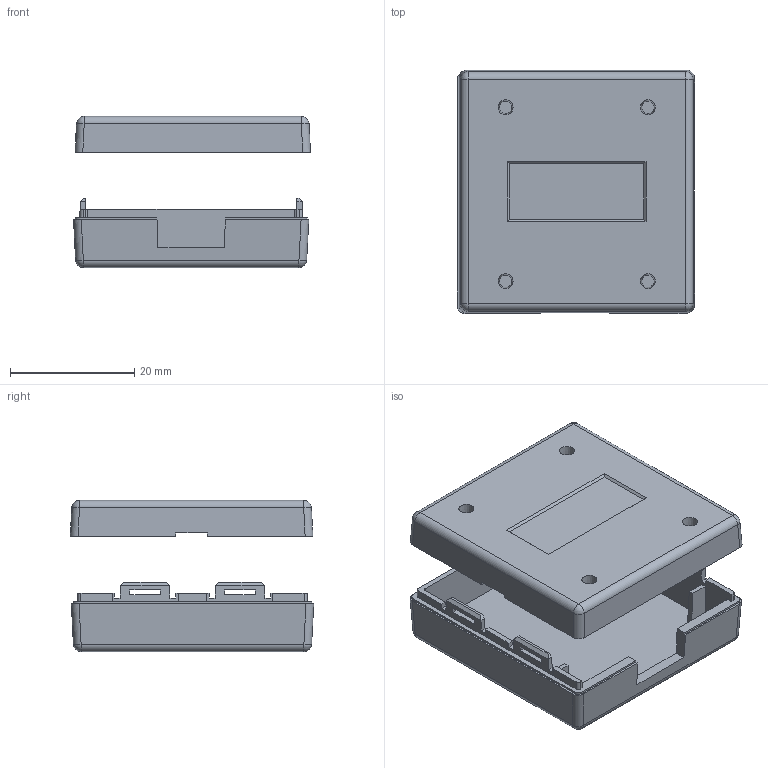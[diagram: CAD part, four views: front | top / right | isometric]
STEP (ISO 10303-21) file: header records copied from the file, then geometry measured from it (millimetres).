
FILE_DESCRIPTION(/* description */ ('Alibre Inc.'),/* implementation_level */ '2;1');
FILE_NAME(/* name */ 'export0',/* time_stamp */ '2014-08-01T08:11:11-06:00',/* author */ (''),/* organization */ (''),/* preprocessor_version */ 'ST-DEVELOPER v14',/* originating_system */ 'Alibre',/* authorisation */ '');
FILE_SCHEMA (('CONFIG_CONTROL_DESIGN'));
Length unit declared in the file: millimetre
Products named in the file (3): ID_1; ID_2; Admi0EA0BCD4essf
Bounding box: 38.09 x 39.12 x 24.3 mm (x, y, z)
Volume: 7417.7 mm3; surface area: 9939.6 mm2
Topology: 2 solids, 2 shells, 273 faces, 756 edges, 492 vertices
Faces by surface type: plane 213, cylinder 40, sphere 8, cone 8, bspline 4
Full cylindrical faces by diameter (mm): 3.099 x4
Entity records: 8625 total; most frequent: CARTESIAN_POINT 1589, ORIENTED_EDGE 1464, DIRECTION 1155, EDGE_CURVE 732, VECTOR 626, LINE 626, VERTEX_POINT 488, AXIS2_PLACEMENT_3D 371
